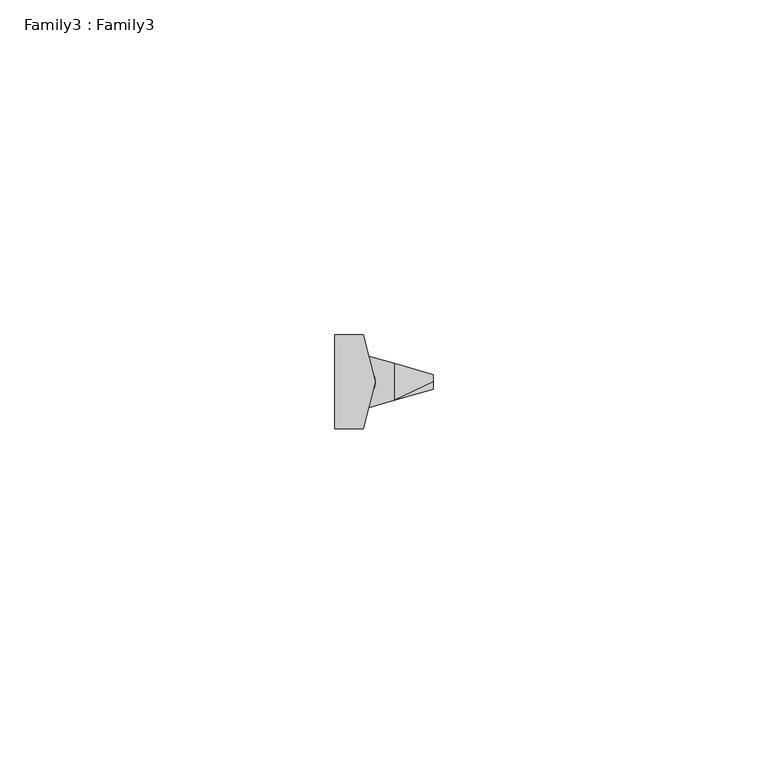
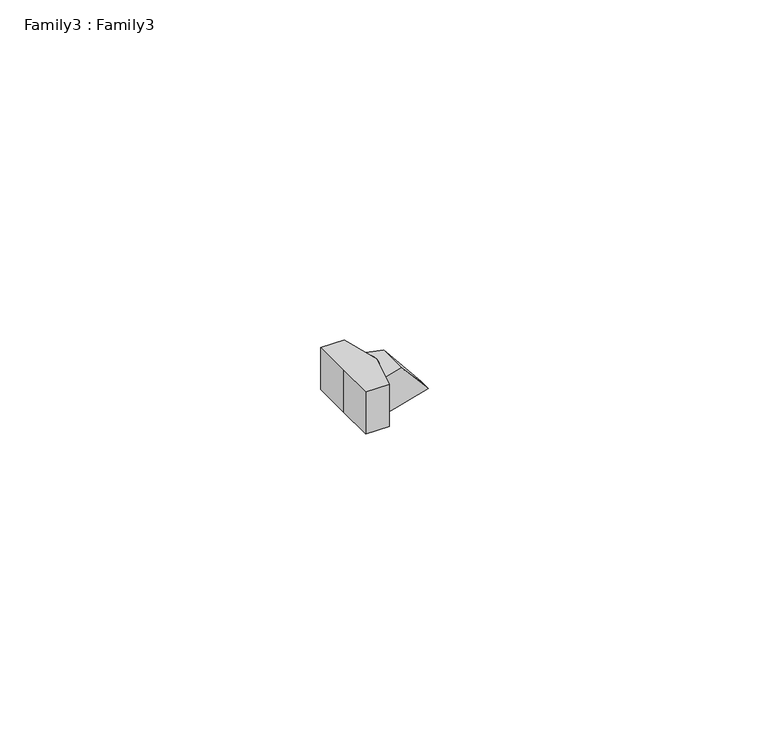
"""IFC4 building model written with IfcOpenShell, lengths in millimetres: proxy geometry, Family3 : Family3."""

from ifc_helpers import new_model, si_unit, point, origin, origin_with_axes, origin_2d, place, context, project, spatial, circle_curve, trimmed, segment, composite_curve, outline, extrude, faceted_brep, source, transform, mapped, element, save


def family3_family3_2d7e2772(model_context):
    return source(origin(), model_context, "Body", "SolidModel", [
        faceted_brep([(5.8654449, 2.7525031, 7.0), (2.0269326, 3.8531788, 7.0), (3.0, 0.0, 7.0), (2.0269326, -3.8531788, 7.0), (5.8654449, -2.7525031, 7.0), (11.6395496, 1.0968052, 0.0), (11.6395496, 0.0, 0.0), (11.6395496, -1.0968052, 0.0), (2.0269326, -3.8531788, 0.0), (1.2308657, -7.0054661, 0.0), (-3.0, -7.0054661, 0.0), (-3.0, 0.0, 0.0), (-3.0, 7.0054661, 0.0), (1.2308657, 7.0054661, 0.0), (2.0269326, 3.8531788, 0.0), (-3.0, 0.0, 8.0), (-3.0, 7.0054661, 8.0), (-3.0, -7.0054661, 8.0), (1.2308657, -7.0054661, 8.0), (3.0, 0.0, 8.0), (1.2308657, 7.0054661, 8.0)], [[[0, 1, 2, 3, 4]], [[5, 6, 7, 8, 9, 10, 11, 12, 13, 14]], [[1, 0, 5, 14]], [[4, 3, 8, 7]], [[7, 6, 4]], [[0, 4, 6, 5]], [[15, 16, 12, 11]], [[17, 15, 11, 10]], [[18, 17, 10, 9]], [[19, 18, 9, 8, 3, 2]], [[20, 19, 2, 1, 14, 13]], [[16, 20, 13, 12]], [[16, 15, 17, 18, 19, 20]]]),
        extrude(outline(composite_curve([segment(trimmed(circle_curve(origin_2d(), 3.0), [point((-3.0, 0.0))], [point((3.0, 0.0))], False, "CARTESIAN"), True, "CONTINUOUS"), segment(trimmed(circle_curve(origin_2d(), 3.0), [point((3.0, 0.0))], [point((-3.0, 0.0))], False, "CARTESIAN"), True, "CONTINUOUS")], self_intersect=False)), origin_with_axes(), (0.0, 0.0, 1.0), 8.0),
    ])


if __name__ == "__main__":
    model = new_model("IFC4")
    model_context = context("Model", 3, world=origin())
    ifc_project = project(units=[si_unit("LENGTHUNIT", "METRE", prefix="MILLI")], contexts=[model_context])
    site = spatial("IfcSite", under=ifc_project)
    building = spatial("IfcBuilding", under=site)
    placement = place(None, origin())
    family3_family3_shape = family3_family3_2d7e2772(model_context)
    element("IfcBuildingElementProxy", 1, Name="Family3 : Family3", ObjectType="Family3 : Family3", at=placement, inside=building, context=model_context, shape_type="MappedRepresentation", body=[
        mapped(family3_family3_shape, transform((0.0, 0.0, 0.0), x_axis=(1.0, 0.0, 0.0), y_axis=(0.0, 1.0, 0.0), z_axis=(0.0, 0.0, 1.0))),
    ])
    save(model, "model.ifc")
